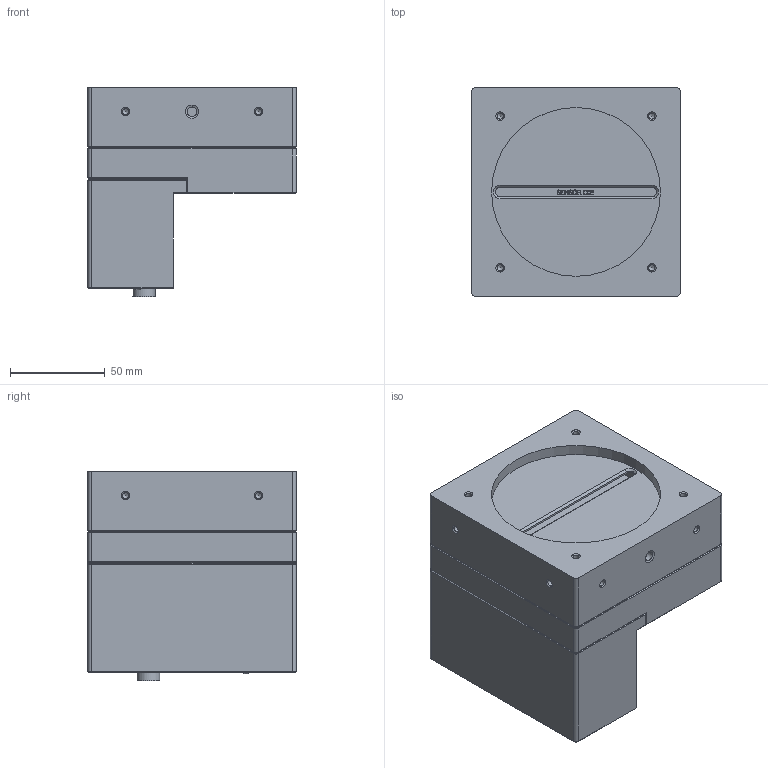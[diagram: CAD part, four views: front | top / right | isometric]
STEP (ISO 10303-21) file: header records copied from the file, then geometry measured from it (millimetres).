
FILE_DESCRIPTION(/* description */ (''),/* implementation_level */ '2;1');
FILE_NAME(/* name */ '116515.stp',/* time_stamp */ '2026-03-16T10:03:51+01:00',/* author */ (''),/* organization */ (''),/* preprocessor_version */ 'ST-DEVELOPER v20',/* originating_system */ 'Autodesk Inventor 2024',/* authorisation */ '');
FILE_SCHEMA (('CONFIG_CONTROL_DESIGN'));
Length unit declared in the file: millimetre
Products named in the file (1): 116515
Bounding box: 110 x 110 x 110.3 mm (x, y, z)
Volume: 845232.3 mm3; surface area: 92525.1 mm2
Topology: 1 solids, 1 shells, 1348 faces, 3770 edges, 2479 vertices
Faces by surface type: plane 659, cylinder 407, bspline 191, cone 62, sphere 17, torus 12
Full cylindrical faces by diameter (mm): 0.6 x12, 3 x2, 3.242 x16, 3.3 x1, 3.4 x2, 4.978 x1, 5.5 x10, 6 x4, 6.5 x4, 9.7 x1, 11.9 x1, 14 x1, 15 x1, 89 x1
Entity records: 48571 total; most frequent: CARTESIAN_POINT 13481, ORIENTED_EDGE 7472, DIRECTION 6337, EDGE_CURVE 3736, VERTEX_POINT 2479, LINE 2235, VECTOR 2235, AXIS2_PLACEMENT_3D 2051
